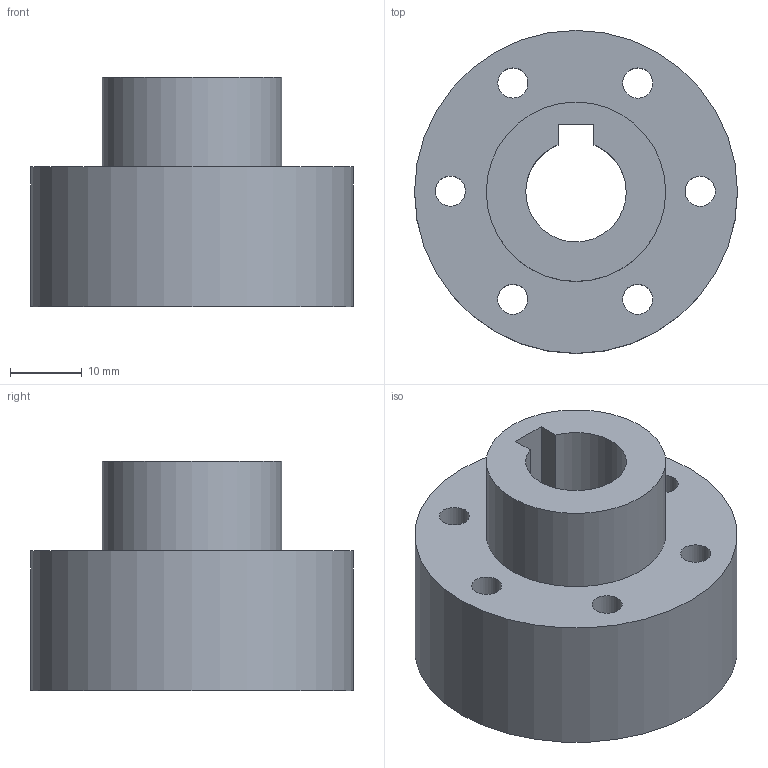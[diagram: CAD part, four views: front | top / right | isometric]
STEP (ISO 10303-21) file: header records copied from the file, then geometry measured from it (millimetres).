
FILE_DESCRIPTION(('HOOPS Exchange Step'),'2;1');
FILE_NAME('C:\Users\lindbee1\AppData\Local\Packages\Shapr3D.Shapr3D_j403pzjkqtqbj\TempState\export\temp_export','2023-09-07T14:24:09+03:00',('lindbee1'),('Shapr3D Limited'),'HOOPS Exchange 2023.2','Shapr3D','Authorized');
FILE_SCHEMA( ('AUTOMOTIVE_DESIGN { 1 0 10303 214 1 1 1 1 }') );
Length unit declared in the file: millimetre
Products named in the file (1): root
Bounding box: 45 x 45 x 32 mm (x, y, z)
Volume: 30197.1 mm3; surface area: 12612.5 mm2
Topology: 2 solids, 2 shells, 18 faces, 60 edges, 46 vertices
Faces by surface type: cylinder 11, plane 7
Full cylindrical faces by diameter (mm): 4.2 x6, 25 x2, 45 x1
Entity records: 763 total; most frequent: DIRECTION 138, CARTESIAN_POINT 125, ORIENTED_EDGE 120, EDGE_CURVE 60, AXIS2_PLACEMENT_3D 59, VERTEX_POINT 46, CIRCLE 40, EDGE_LOOP 34
